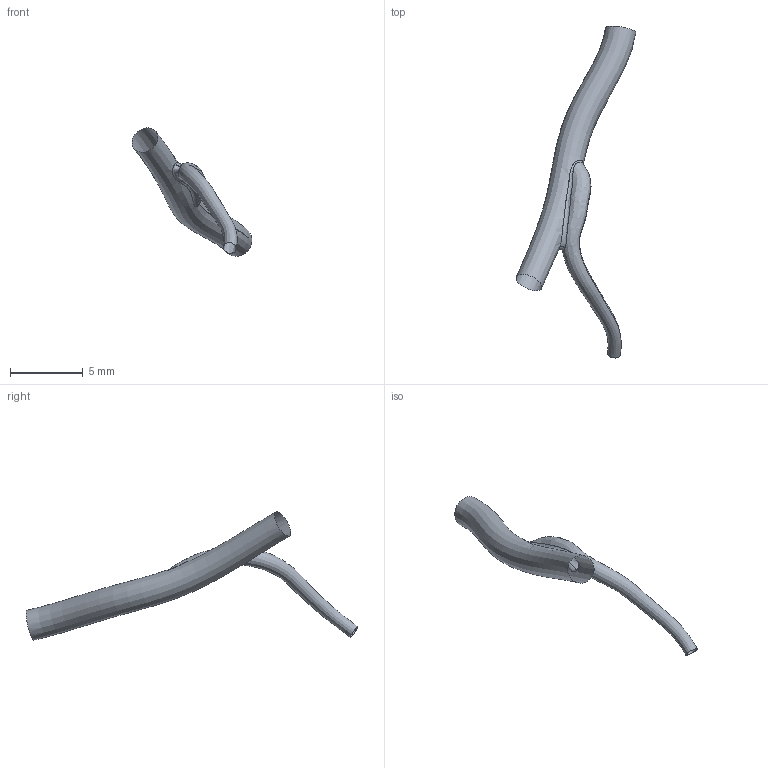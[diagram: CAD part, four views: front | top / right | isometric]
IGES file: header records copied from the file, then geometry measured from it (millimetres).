
Global section: file name: C:\Documents and Settings\Administrator\Desktop\FDA-Pig\Domestic RCA\Pig_000004\rv.ed.igs; native system: Rhinoceros ( May 19 2006 ); preprocessor: Trout Lake IGES 012 May 19 2006; date: 111205.185037; units: centimetre
Bounding box: 8.26 x 22.88 x 8.85 mm (x, y, z)
Surface area: 172.2 mm2 (no closed solid volume)
Topology: 0 solids, 0 shells, 5 faces, 72 edges, 71 vertices
Faces by surface type: bspline 5
